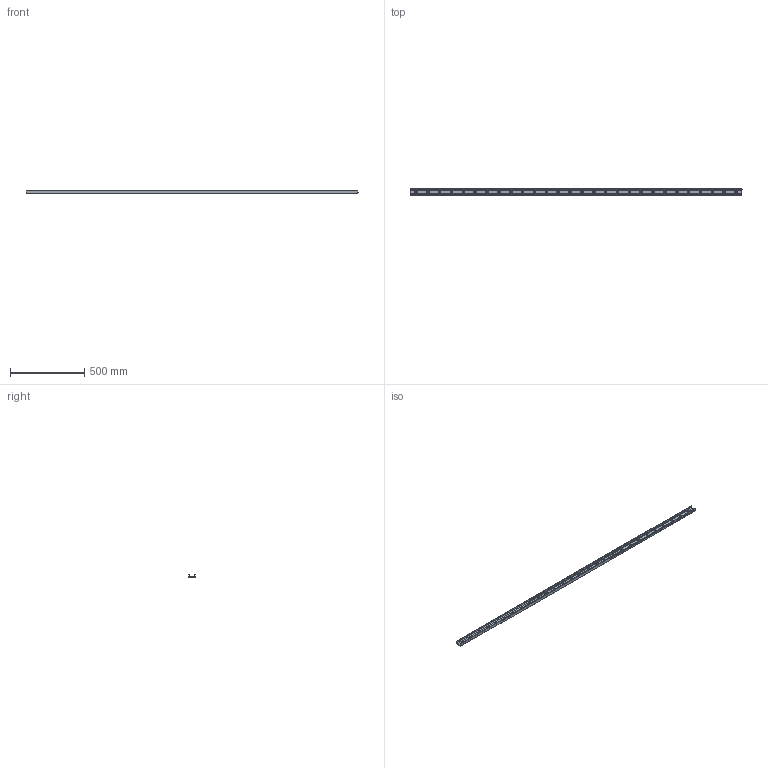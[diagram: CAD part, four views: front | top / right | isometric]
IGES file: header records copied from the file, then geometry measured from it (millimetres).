
Start section: SolidWorks IGES file using analytic representation for surfaces
Global section: file name: C:\Users\IanO\Desktop\43\L1943.ULV43_v2_20180121_IGES\L1943.ULV43-2240.igs; native system: SolidWorks 2017; preprocessor: SolidWorks 2017; author: IanO; date: 190121.090249; units: millimetre
Bounding box: 2240 x 43 x 21 mm (x, y, z)
Surface area: 347712.9 mm2 (no closed solid volume)
Topology: 0 solids, 0 shells, 138 faces, 2534 edges, 2534 vertices
Faces by surface type: revolution 125, bspline 13
